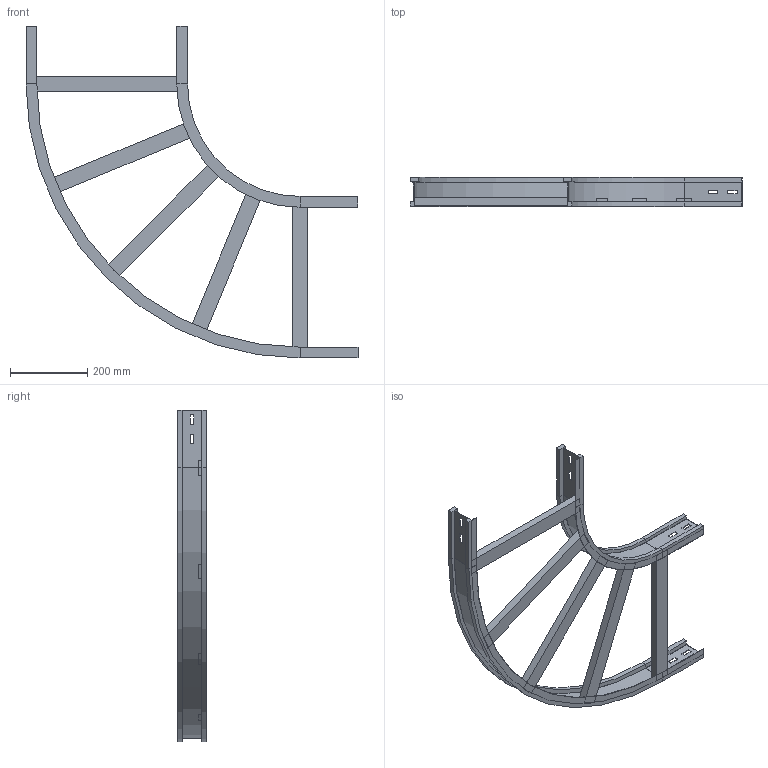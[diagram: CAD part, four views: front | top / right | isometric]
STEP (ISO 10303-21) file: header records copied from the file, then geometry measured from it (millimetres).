
FILE_DESCRIPTION (( 'STEP AP214' ), '1' );
FILE_NAME ('10S3C400.step', '2025-02-21T16:11:16', ( '' ), ( '' ), 'SwSTEP 2.0', 'SolidWorks 2023', '' );
FILE_SCHEMA (( 'AUTOMOTIVE_DESIGN' ));
Length unit declared in the file: millimetre
Products named in the file (4): LONGH.INTERNO 90°_H75_R300; 10S3C400; TRAVERSINO_400; LONGH.ESTERNO 90°_H75_R300+400
Assembly tree (7 placements, depth 2):
  10S3C400
    LONGH.INTERNO 90°_H75_R300
    LONGH.ESTERNO 90°_H75_R300+400
    TRAVERSINO_400  x5
Bounding box: 859 x 75 x 859 mm (x, y, z)
Volume: 2674809.9 mm3; surface area: 783658.7 mm2
Topology: 7 solids, 7 shells, 138 faces, 324 edges, 200 vertices
Faces by surface type: plane 126, cylinder 12
Entity records: 3405 total; most frequent: CARTESIAN_POINT 568, ORIENTED_EDGE 552, DIRECTION 548, EDGE_CURVE 276, LINE 252, VECTOR 252, VERTEX_POINT 168, AXIS2_PLACEMENT_3D 148
